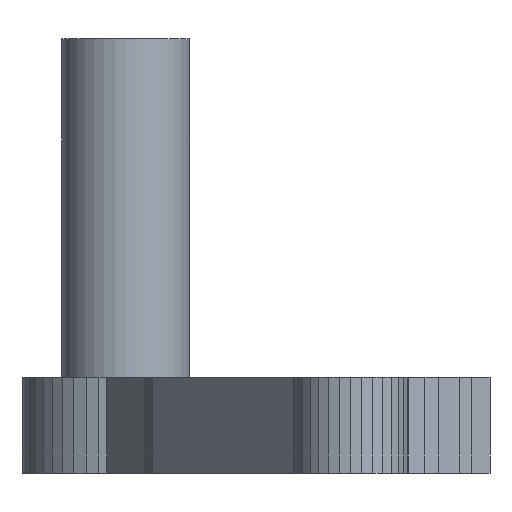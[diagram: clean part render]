
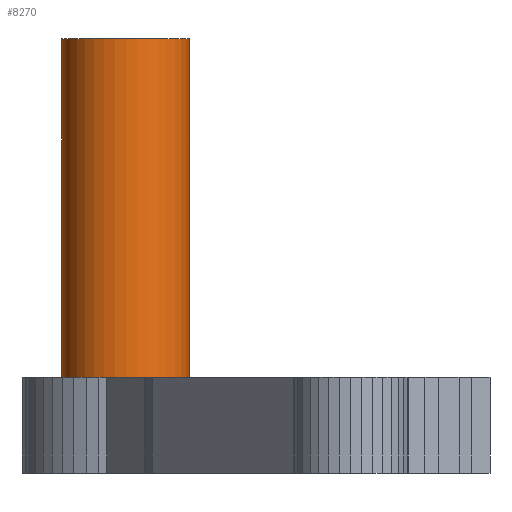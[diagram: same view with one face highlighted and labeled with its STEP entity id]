
A CAD part, left-side view. The second image highlights one B-rep face of the part: STEP entity #8270.
In plain terms, the highlighted cylindrical face has radius 4 mm (diameter 8 mm), a full revolution.
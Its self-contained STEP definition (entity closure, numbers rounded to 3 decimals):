
#72 = PLANE('',#73);
#73 = AXIS2_PLACEMENT_3D('',#74,#75,#76);
#74 = CARTESIAN_POINT('',(0.025,-0.499,6.));
#75 = DIRECTION('',(-0.,-0.,-1.));
#76 = DIRECTION('',(-1.,0.,0.));
#5476 = EDGE_CURVE('',#5477,#5477,#5479,.T.);
#5477 = VERTEX_POINT('',#5478);
#5478 = CARTESIAN_POINT('',(4.,8.155,6.));
#5479 = SURFACE_CURVE('',#5480,(#5485,#5496),.PCURVE_S1.);
#5480 = CIRCLE('',#5481,4.);
#5481 = AXIS2_PLACEMENT_3D('',#5482,#5483,#5484);
#5482 = CARTESIAN_POINT('',(0.,8.155,6.));
#5483 = DIRECTION('',(0.,0.,1.));
#5484 = DIRECTION('',(1.,0.,-0.));
#5485 = PCURVE('',#72,#5486);
#5486 = DEFINITIONAL_REPRESENTATION('',(#5487),#5495);
#5487 = ( BOUNDED_CURVE() B_SPLINE_CURVE(2,(#5488,#5489,#5490,#5491,
#5492,#5493,#5494),.UNSPECIFIED.,.T.,.F.) B_SPLINE_CURVE_WITH_KNOTS((1,2
    ,2,2,2,1),(-2.094,0.,2.094,4.189,
6.283,8.378),.UNSPECIFIED.) CURVE() 
GEOMETRIC_REPRESENTATION_ITEM() RATIONAL_B_SPLINE_CURVE((1.,0.5,1.,0.5,
1.,0.5,1.)) REPRESENTATION_ITEM('') );
#5488 = CARTESIAN_POINT('',(-3.975,8.655));
#5489 = CARTESIAN_POINT('',(-3.975,15.583));
#5490 = CARTESIAN_POINT('',(2.025,12.119));
#5491 = CARTESIAN_POINT('',(8.025,8.655));
#5492 = CARTESIAN_POINT('',(2.025,5.191));
#5493 = CARTESIAN_POINT('',(-3.975,1.727));
#5494 = CARTESIAN_POINT('',(-3.975,8.655));
#5495 = ( GEOMETRIC_REPRESENTATION_CONTEXT(2) 
PARAMETRIC_REPRESENTATION_CONTEXT() REPRESENTATION_CONTEXT('2D SPACE',''
  ) );
#5496 = PCURVE('',#5497,#5502);
#5497 = CYLINDRICAL_SURFACE('',#5498,4.);
#5498 = AXIS2_PLACEMENT_3D('',#5499,#5500,#5501);
#5499 = CARTESIAN_POINT('',(0.,8.155,5.9));
#5500 = DIRECTION('',(0.,0.,1.));
#5501 = DIRECTION('',(1.,0.,-0.));
#5502 = DEFINITIONAL_REPRESENTATION('',(#5503),#5507);
#5503 = LINE('',#5504,#5505);
#5504 = CARTESIAN_POINT('',(0.,0.1));
#5505 = VECTOR('',#5506,1.);
#5506 = DIRECTION('',(1.,0.));
#5507 = ( GEOMETRIC_REPRESENTATION_CONTEXT(2) 
PARAMETRIC_REPRESENTATION_CONTEXT() REPRESENTATION_CONTEXT('2D SPACE',''
  ) );
#8236 = PLANE('',#8237);
#8237 = AXIS2_PLACEMENT_3D('',#8238,#8239,#8240);
#8238 = CARTESIAN_POINT('',(0.,8.155,27.2));
#8239 = DIRECTION('',(0.,0.,1.));
#8240 = DIRECTION('',(1.,0.,-0.));
#8270 = ADVANCED_FACE('',(#8271),#5497,.T.);
#8271 = FACE_BOUND('',#8272,.T.);
#8272 = EDGE_LOOP('',(#8273,#8296,#8318,#8319));
#8273 = ORIENTED_EDGE('',*,*,#8274,.T.);
#8274 = EDGE_CURVE('',#5477,#8275,#8277,.T.);
#8275 = VERTEX_POINT('',#8276);
#8276 = CARTESIAN_POINT('',(4.,8.155,27.2));
#8277 = SEAM_CURVE('',#8278,(#8282,#8289),.PCURVE_S1.);
#8278 = LINE('',#8279,#8280);
#8279 = CARTESIAN_POINT('',(4.,8.155,5.9));
#8280 = VECTOR('',#8281,1.);
#8281 = DIRECTION('',(0.,0.,1.));
#8282 = PCURVE('',#5497,#8283);
#8283 = DEFINITIONAL_REPRESENTATION('',(#8284),#8288);
#8284 = LINE('',#8285,#8286);
#8285 = CARTESIAN_POINT('',(6.283,-0.));
#8286 = VECTOR('',#8287,1.);
#8287 = DIRECTION('',(0.,1.));
#8288 = ( GEOMETRIC_REPRESENTATION_CONTEXT(2) 
PARAMETRIC_REPRESENTATION_CONTEXT() REPRESENTATION_CONTEXT('2D SPACE',''
  ) );
#8289 = PCURVE('',#5497,#8290);
#8290 = DEFINITIONAL_REPRESENTATION('',(#8291),#8295);
#8291 = LINE('',#8292,#8293);
#8292 = CARTESIAN_POINT('',(0.,-0.));
#8293 = VECTOR('',#8294,1.);
#8294 = DIRECTION('',(0.,1.));
#8295 = ( GEOMETRIC_REPRESENTATION_CONTEXT(2) 
PARAMETRIC_REPRESENTATION_CONTEXT() REPRESENTATION_CONTEXT('2D SPACE',''
  ) );
#8296 = ORIENTED_EDGE('',*,*,#8297,.F.);
#8297 = EDGE_CURVE('',#8275,#8275,#8298,.T.);
#8298 = SURFACE_CURVE('',#8299,(#8304,#8311),.PCURVE_S1.);
#8299 = CIRCLE('',#8300,4.);
#8300 = AXIS2_PLACEMENT_3D('',#8301,#8302,#8303);
#8301 = CARTESIAN_POINT('',(0.,8.155,27.2));
#8302 = DIRECTION('',(0.,0.,1.));
#8303 = DIRECTION('',(1.,0.,-0.));
#8304 = PCURVE('',#5497,#8305);
#8305 = DEFINITIONAL_REPRESENTATION('',(#8306),#8310);
#8306 = LINE('',#8307,#8308);
#8307 = CARTESIAN_POINT('',(0.,21.3));
#8308 = VECTOR('',#8309,1.);
#8309 = DIRECTION('',(1.,0.));
#8310 = ( GEOMETRIC_REPRESENTATION_CONTEXT(2) 
PARAMETRIC_REPRESENTATION_CONTEXT() REPRESENTATION_CONTEXT('2D SPACE',''
  ) );
#8311 = PCURVE('',#8236,#8312);
#8312 = DEFINITIONAL_REPRESENTATION('',(#8313),#8317);
#8313 = CIRCLE('',#8314,4.);
#8314 = AXIS2_PLACEMENT_2D('',#8315,#8316);
#8315 = CARTESIAN_POINT('',(0.,0.));
#8316 = DIRECTION('',(1.,0.));
#8317 = ( GEOMETRIC_REPRESENTATION_CONTEXT(2) 
PARAMETRIC_REPRESENTATION_CONTEXT() REPRESENTATION_CONTEXT('2D SPACE',''
  ) );
#8318 = ORIENTED_EDGE('',*,*,#8274,.F.);
#8319 = ORIENTED_EDGE('',*,*,#5476,.T.);
